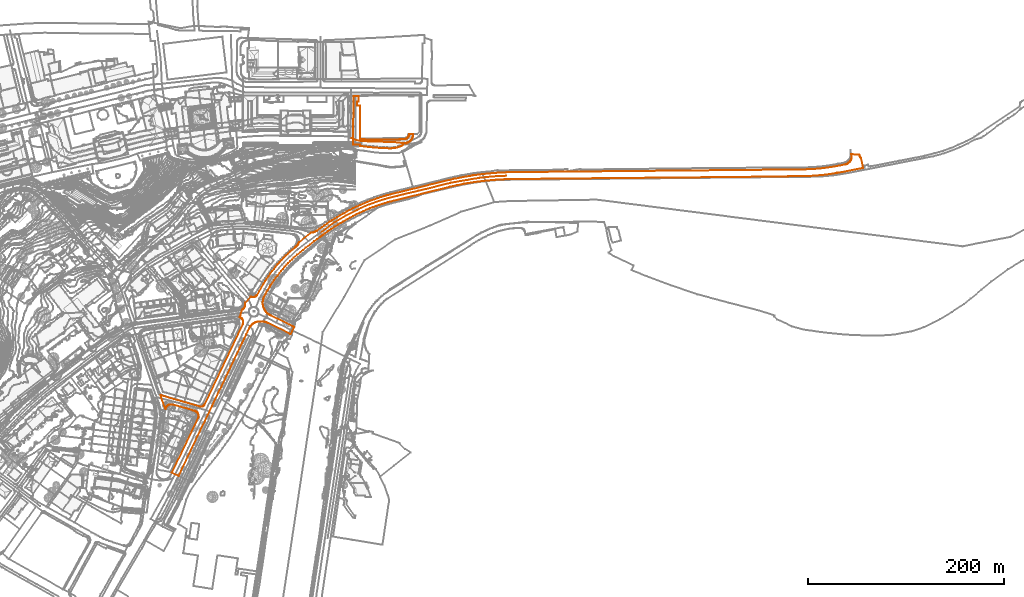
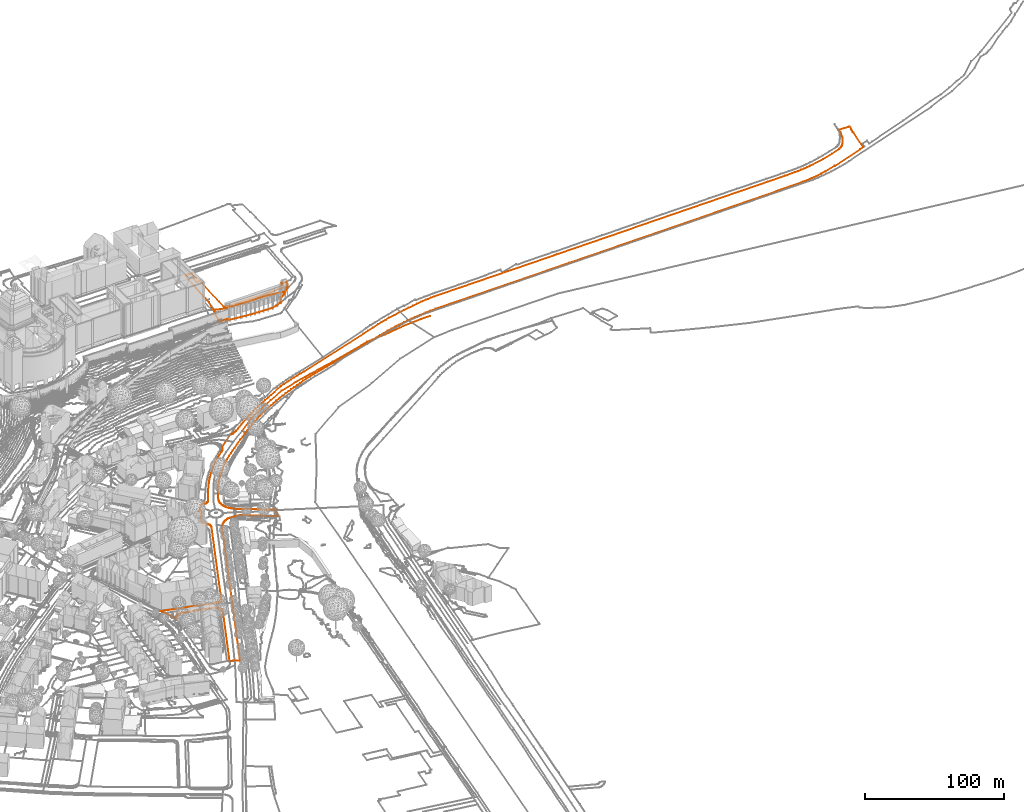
# Not in any storey, part 212 of 494: 4 proxies.
"""IFC2X3 model written with IfcOpenShell, lengths in metres."""

from ifc_helpers import new_model, entity, si_unit, frame, origin_with_axes, place, context, subcontext, project, element, save


model = new_model("IFC2X3")

# Units and contexts
model_context = context("Model", 3, precision=1e-05, world=origin_with_axes())
body_context = subcontext(model_context, "Body", "Model", "MODEL_VIEW")
ifc_project = project(units=[si_unit("AREAUNIT", "SQUARE_METRE"), si_unit("LENGTHUNIT", "METRE")], contexts=[model_context])

# Proxies
proxy_1_placement = place(None, frame((652.7287320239, 270.2307349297, 502.334), z_axis=(0.0, 0.0, 1.0), x_axis=(1.0, 0.0, 0.0)))
element("IfcBuildingElementProxy", 1, at=proxy_1_placement, Name="Road 186", ObjectType="NOTDEFINED", context=body_context, shape_type="GeometricCurveSet", body=[
    entity("IfcGeometricCurveSet", [entity("IfcPolyline", [entity("IfcCartesianPoint", [0.0, 0.0, 0.0]), entity("IfcCartesianPoint", [13.3630000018, 9.8389996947, 0.064]), entity("IfcCartesianPoint", [25.5520000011, 17.0339994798, 0.069]), entity("IfcCartesianPoint", [37.0050000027, 23.0549992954, -0.076]), entity("IfcCartesianPoint", [49.4869999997, 28.6349991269, 0.49]), entity("IfcCartesianPoint", [64.0240000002, 33.6279989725, 0.034]), entity("IfcCartesianPoint", [77.8280000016, 37.2989988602, 0.002]), entity("IfcCartesianPoint", [99.7080000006, 42.4379987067, -0.088]), entity("IfcCartesianPoint", [133.0419999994, 50.6609984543, 0.775]), entity("IfcCartesianPoint", [149.4880000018, 53.5979983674, -0.385]), entity("IfcCartesianPoint", [162.557, 55.6539983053, -0.304]), entity("IfcCartesianPoint", [172.9830000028, 56.8289982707, -0.418]), entity("IfcCartesianPoint", [181.3529999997, 57.4159982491, -0.329]), entity("IfcCartesianPoint", [188.9890000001, 57.7099982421, -0.403])])]),
])
proxy_2_placement = place(None, frame((683.4917320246, 366.5697319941, 539.193), z_axis=(0.0, 0.0, 1.0), x_axis=(1.0, 0.0, 0.0)))
element("IfcBuildingElementProxy", 2, at=proxy_2_placement, Name="Road 194", ObjectType="NOTDEFINED", context=body_context, shape_type="GeometricCurveSet", body=[
    entity("IfcGeometricCurveSet", [entity("IfcPolyline", [entity("IfcCartesianPoint", [0.0, 0.0, 0.0]), entity("IfcCartesianPoint", [4.0940000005, -1.8689999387, 0.0]), entity("IfcCartesianPoint", [9.9670000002, -3.3299998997, 0.0]), entity("IfcCartesianPoint", [26.7219999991, -3.8929998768, 0.0]), entity("IfcCartesianPoint", [44.0549999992, -4.3579998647, 0.0]), entity("IfcCartesianPoint", [56.6810000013, -5.775999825, -0.321])])]),
])
proxy_3_placement = place(None, frame((685.9557320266, 359.8897160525, 531.9942875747), z_axis=(0.0, 0.0, 1.0), x_axis=(1.0, 0.0, 0.0)))
element("IfcBuildingElementProxy", 3, at=proxy_3_placement, Name="Roads Outline 50", ObjectType="NOTDEFINED", context=body_context, shape_type="GeometricCurveSet", body=[
    entity("IfcGeometricCurveSet", [entity("IfcPolyline", [entity("IfcCartesianPoint", [0.0, 0.0, 0.0]), entity("IfcCartesianPoint", [0.0890000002, 15.2690000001, 7.6696997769]), entity("IfcCartesianPoint", [0.2890000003, 49.442, 10.4254506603]), entity("IfcCartesianPoint", [3.659, 49.45, 10.4313252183]), entity("IfcCartesianPoint", [4.142, 49.45, 10.4313252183]), entity("IfcCartesianPoint", [5.6860000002, 49.3999999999, 10.4283955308]), entity("IfcCartesianPoint", [5.6899999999, 43.419, 9.9721661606]), entity("IfcCartesianPoint", [3.7460000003, 43.4180000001, 9.9721215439]), entity("IfcCartesianPoint", [3.7480000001, 39.308, 9.6187777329]), entity("IfcCartesianPoint", [7.1060000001, 39.3100000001, 9.6190103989]), entity("IfcCartesianPoint", [7.1070000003, 36.6429999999, 9.3774083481]), entity("IfcCartesianPoint", [6.8319999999, 36.6429999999, 9.3774083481]), entity("IfcCartesianPoint", [6.844, 12.4750000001, 7.4352180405]), entity("IfcCartesianPoint", [6.9440000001, 12.4750000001, 7.4352180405]), entity("IfcCartesianPoint", [6.9480000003, 5.2579999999, 7.2734139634]), entity("IfcCartesianPoint", [7.4980000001, 5.2579999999, 7.2734139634]), entity("IfcCartesianPoint", [11.4310000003, 5.2320000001, 7.2716905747]), entity("IfcCartesianPoint", [11.4270000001, 4.7439999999, 7.239599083]), entity("IfcCartesianPoint", [47.3960000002, 4.7709999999, 7.2412025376]), entity("IfcCartesianPoint", [47.3960000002, 5.2609999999, 7.2736128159]), entity("IfcCartesianPoint", [51.8680000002, 5.297, 7.2759990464]), entity("IfcCartesianPoint", [52.4380000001, 5.338, 7.2787166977]), entity("IfcCartesianPoint", [53.0010000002, 5.4399999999, 7.2854776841]), entity("IfcCartesianPoint", [53.5490000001, 5.6029999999, 7.2962820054]), entity("IfcCartesianPoint", [54.077, 5.8230000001, 7.3117002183]), entity("IfcCartesianPoint", [54.5780000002, 6.0989999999, 7.3354863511]), entity("IfcCartesianPoint", [55.0950000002, 6.4620000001, 7.3667702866]), entity("IfcCartesianPoint", [55.5649999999, 6.8840000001, 7.394394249]), entity("IfcCartesianPoint", [55.9790000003, 7.361, 7.3950056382]), entity("IfcCartesianPoint", [56.3330000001, 7.8840000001, 7.3952736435]), entity("IfcCartesianPoint", [56.6210000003, 8.446, 7.393798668]), entity("IfcCartesianPoint", [56.8020000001, 8.925, 7.3990630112]), entity("IfcCartesianPoint", [56.9360000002, 9.419, 7.4201388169]), entity("IfcCartesianPoint", [57.02, 9.923, 7.4356003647]), entity("IfcCartesianPoint", [57.054, 10.4339999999, 7.4356627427]), entity("IfcCartesianPoint", [61.0440000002, 10.4609999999, 7.4356660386]), entity("IfcCartesianPoint", [61.0300000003, 9.6580000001, 7.4303354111]), entity("IfcCartesianPoint", [60.9440000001, 8.858, 7.3962045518]), entity("IfcCartesianPoint", [60.787, 8.0700000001, 7.3947854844]), entity("IfcCartesianPoint", [60.5610000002, 7.2989999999, 7.3949261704]), entity("IfcCartesianPoint", [60.267, 6.551, 7.3744404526]), entity("IfcCartesianPoint", [59.9070000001, 5.8329999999, 7.3125620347]), entity("IfcCartesianPoint", [59.4850000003, 5.149, 7.2661889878]), entity("IfcCartesianPoint", [59.003, 4.5060000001, 7.2254649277]), entity("IfcCartesianPoint", [58.466, 3.9080000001, 7.1899513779]), entity("IfcCartesianPoint", [57.878, 3.3599999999, 7.1886018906]), entity("IfcCartesianPoint", [57.2430000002, 2.8670000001, 7.1958536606]), entity("IfcCartesianPoint", [56.5670000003, 2.433, 6.5050056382]), entity("IfcCartesianPoint", [55.8450000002, 2.0560000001, 5.7552165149]), entity("IfcCartesianPoint", [55.0920000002, 1.746, 5.0546247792]), entity("IfcCartesianPoint", [54.3140000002, 1.5060000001, 4.000933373]), entity("IfcCartesianPoint", [53.517, 1.3359999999, 3.2545686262]), entity("IfcCartesianPoint", [52.7080000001, 1.24, 2.8330920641]), entity("IfcCartesianPoint", [51.8940000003, 1.2169999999, 2.7321133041]), entity("IfcCartesianPoint", [51.0810000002, 1.2679999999, 2.9560227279]), entity("IfcCartesianPoint", [51.0580000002, -0.331, 0.056040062]), entity("IfcCartesianPoint", [49.8760000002, -0.9750000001, 0.0664170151]), entity("IfcCartesianPoint", [48.6680000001, -1.5700000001, 0.0835668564]), entity("IfcCartesianPoint", [47.4360000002, -2.112, 0.1039778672]), entity("IfcCartesianPoint", [46.182, -2.602, 0.1272929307]), entity("IfcCartesianPoint", [44.909, -3.0390000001, 0.1492976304]), entity("IfcCartesianPoint", [43.6180000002, -3.4210000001, 0.1381416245]), entity("IfcCartesianPoint", [42.2520000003, -3.679, 0.1123164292]), entity("IfcCartesianPoint", [40.875, -3.8659999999, 0.0935981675]), entity("IfcCartesianPoint", [39.4900000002, -3.9820000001, 0.0819868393]), entity("IfcCartesianPoint", [38.1010000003, -4.027, 0.0774824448]), entity("IfcCartesianPoint", [36.7120000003, -4.0009999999, 0.0800849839]), entity("IfcCartesianPoint", [34.0440000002, -3.973, 0.0828877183]), entity("IfcCartesianPoint", [31.3770000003, -3.889, 0.0912959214]), entity("IfcCartesianPoint", [28.7120000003, -3.7509999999, 0.105109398]), entity("IfcCartesianPoint", [16.9180000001, -2.8019999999, 0.1373637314]), entity("IfcCartesianPoint", [6.9390000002, -1.6529999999, 0.0866925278]), entity("IfcCartesianPoint", [6.9190000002, 0.0319999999, 0.2459170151]), entity("IfcCartesianPoint", [2.5589999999, 0.0219999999, 0.2382802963]), entity("IfcCartesianPoint", [0.4140000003, 0.004, 0.0634251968]), entity("IfcCartesianPoint", [0.0, 0.0, 0.0])])]),
])
proxy_4_placement = place(None, frame((489.6837320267, 104.7347160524, 502.037969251), z_axis=(0.0, 0.0, 1.0), x_axis=(1.0, 0.0, 0.0)))
element("IfcBuildingElementProxy", 4, at=proxy_4_placement, Name="Roads Outline 129", ObjectType="NOTDEFINED", context=body_context, shape_type="GeometricCurveSet", body=[
    entity("IfcGeometricCurveSet", [entity("IfcPolyline", [entity("IfcCartesianPoint", [0.0, 0.0, 0.0]), entity("IfcCartesianPoint", [0.4920000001, -0.233, 0.0318267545]), entity("IfcCartesianPoint", [1.0060000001, -0.412, 0.0950170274]), entity("IfcCartesianPoint", [39.8199999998, -11.6299999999, 0.2764621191]), entity("IfcCartesianPoint", [40.324, -11.797, 0.2865341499]), entity("IfcCartesianPoint", [40.8450000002, -11.895, 0.2985066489]), entity("IfcCartesianPoint", [41.375, -11.923, 0.313501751]), entity("IfcCartesianPoint", [41.9029999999, -11.8810000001, 0.3333480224]), entity("IfcCartesianPoint", [42.4219999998, -11.7690000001, 0.3526205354]), entity("IfcCartesianPoint", [42.8859999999, -11.6029999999, 0.372504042]), entity("IfcCartesianPoint", [43.327, -11.3810000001, 0.3893167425]), entity("IfcCartesianPoint", [43.736, -11.1059999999, 0.4033817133]), entity("IfcCartesianPoint", [44.1090000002, -10.7830000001, 0.400764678]), entity("IfcCartesianPoint", [44.4380000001, -10.416, 0.3657466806]), entity("IfcCartesianPoint", [44.7200000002, -10.0109999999, 0.329784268]), entity("IfcCartesianPoint", [44.9500000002, -9.575, 0.3438664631]), entity("IfcCartesianPoint", [83.7009999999, 71.5360000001, 0.3001369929]), entity("IfcCartesianPoint", [83.929, 72.0379999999, 0.3125179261]), entity("IfcCartesianPoint", [84.1060000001, 72.5590000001, 0.3279154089]), entity("IfcCartesianPoint", [84.2310000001, 73.0959999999, 0.3375027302]), entity("IfcCartesianPoint", [84.3029999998, 73.642, 0.3435276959]), entity("IfcCartesianPoint", [84.3190000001, 74.247, 0.3418342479]), entity("IfcCartesianPoint", [84.27, 74.851, 0.3344868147]), entity("IfcCartesianPoint", [84.156, 75.446, 0.3401234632]), entity("IfcCartesianPoint", [83.9780000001, 76.0249999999, 0.3378386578]), entity("IfcCartesianPoint", [83.7179999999, 76.608, 0.3384688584]), entity("IfcCartesianPoint", [83.3900000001, 77.156, 0.3458584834]), entity("IfcCartesianPoint", [82.9989999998, 77.6599999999, 0.3509445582]), entity("IfcCartesianPoint", [82.5520000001, 78.115, 0.3585128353]), entity("IfcCartesianPoint", [82.0529999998, 78.514, 0.3793027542]), entity("IfcCartesianPoint", [81.4210000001, 78.912, 0.3947122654]), entity("IfcCartesianPoint", [80.7510000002, 79.2409999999, 0.3958385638]), entity("IfcCartesianPoint", [81.3960000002, 81.422, 0.3990033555]), entity("IfcCartesianPoint", [82.986, 86.8019999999, 0.3606123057]), entity("IfcCartesianPoint", [82.9950000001, 86.831, 0.3602272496]), entity("IfcCartesianPoint", [83.6030000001, 87.209, 0.369613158]), entity("IfcCartesianPoint", [84.165, 87.6499999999, 0.3805091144]), entity("IfcCartesianPoint", [84.676, 88.1510000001, 0.3936143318]), entity("IfcCartesianPoint", [85.1290000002, 88.7050000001, 0.4026164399]), entity("IfcCartesianPoint", [85.5189999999, 89.3049999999, 0.4034149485]), entity("IfcCartesianPoint", [85.8199999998, 89.8959999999, 0.3853303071]), entity("IfcCartesianPoint", [86.0589999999, 90.5149999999, 0.3837114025]), entity("IfcCartesianPoint", [86.2349999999, 91.1540000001, 0.385634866]), entity("IfcCartesianPoint", [86.3450000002, 91.808, 0.3934733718]), entity("IfcCartesianPoint", [86.3870000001, 92.47, 0.3949902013]), entity("IfcCartesianPoint", [86.3629999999, 93.1329999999, 0.3962791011]), entity("IfcCartesianPoint", [86.2710000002, 93.79, 0.3904640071]), entity("IfcCartesianPoint", [86.3590000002, 93.8899999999, 0.3864006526]), entity("IfcCartesianPoint", [92.017, 100.321, 0.5224619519]), entity("IfcCartesianPoint", [92.5070000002, 100.0649999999, 0.5266412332]), entity("IfcCartesianPoint", [93.0240000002, 99.8689999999, 0.523044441]), entity("IfcCartesianPoint", [93.5610000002, 99.737, 0.525689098]), entity("IfcCartesianPoint", [94.1090000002, 99.6699999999, 0.5273917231]), entity("IfcCartesianPoint", [94.662, 99.6699999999, 0.52829527]), entity("IfcCartesianPoint", [95.2179999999, 99.7379999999, 0.5303505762]), entity("IfcCartesianPoint", [95.7609999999, 99.8740000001, 0.5272590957]), entity("IfcCartesianPoint", [96.284, 100.075, 0.5236011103]), entity("IfcCartesianPoint", [96.7790000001, 100.338, 0.5236526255]), entity("IfcCartesianPoint", [97.2370000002, 100.659, 0.5298865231]), entity("IfcCartesianPoint", [97.6529999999, 101.034, 0.533267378]), entity("IfcCartesianPoint", [98.0210000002, 101.4569999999, 0.5120987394]), entity("IfcCartesianPoint", [98.3339999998, 101.9210000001, 0.4776904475]), entity("IfcCartesianPoint", [104.9720000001, 113.2220000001, 0.4329129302]), entity("IfcCartesianPoint", [106.5989999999, 115.855, 0.4393658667]), entity("IfcCartesianPoint", [108.2820000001, 118.453, 0.4354937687]), entity("IfcCartesianPoint", [110.02, 121.014, 0.3888726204]), entity("IfcCartesianPoint", [111.8139999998, 123.537, 0.3735200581]), entity("IfcCartesianPoint", [113.6609999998, 126.0209999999, 0.3625646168]), entity("IfcCartesianPoint", [115.5210000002, 128.4140000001, 0.331611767]), entity("IfcCartesianPoint", [117.4309999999, 130.767, 0.3335581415]), entity("IfcCartesianPoint", [119.3900000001, 133.0789999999, 0.3097474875]), entity("IfcCartesianPoint", [121.398, 135.3489999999, 0.3087374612]), entity("IfcCartesianPoint", [123.4530000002, 137.577, 0.2541953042]), entity("IfcCartesianPoint", [125.5550000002, 139.76, 0.2779658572]), entity("IfcCartesianPoint", [127.659, 141.8770000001, 0.2416971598]), entity("IfcCartesianPoint", [129.8119999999, 143.9450000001, 0.2766928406]), entity("IfcCartesianPoint", [132.1209999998, 146.0530000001, 0.2389161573]), entity("IfcCartesianPoint", [134.4819999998, 148.1030000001, 0.2319543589]), entity("IfcCartesianPoint", [136.8930000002, 150.094, 0.233252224]), entity("IfcCartesianPoint", [137.483, 150.5600000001, 0.2067087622]), entity("IfcCartesianPoint", [138.0750000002, 151.0220000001, 0.2246084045]), entity("IfcCartesianPoint", [138.375, 151.3030000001, 0.2387899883]), entity("IfcCartesianPoint", [138.6660000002, 151.595, 0.2399036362]), entity("IfcCartesianPoint", [139.145, 152.0419999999, 0.2449269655]), entity("IfcCartesianPoint", [139.5839999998, 152.5279999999, 0.2313018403]), entity("IfcCartesianPoint", [139.98, 153.0490000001, 0.2313866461]), entity("IfcCartesianPoint", [140.3849999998, 153.703, 0.2462976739]), entity("IfcCartesianPoint", [140.7220000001, 154.3940000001, 0.2484129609]), entity("IfcCartesianPoint", [140.8969999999, 154.926, 0.2506428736]), entity("IfcCartesianPoint", [141.0430000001, 155.4669999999, 0.2681042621]), entity("IfcCartesianPoint", [153.389, 165.3759999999, 0.3942801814]), entity("IfcCartesianPoint", [154.0079999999, 165.399, 0.3974693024]), entity("IfcCartesianPoint", [154.6239999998, 165.4639999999, 0.4004231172]), entity("IfcCartesianPoint", [155.2340000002, 165.571, 0.4063330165]), entity("IfcCartesianPoint", [156.0610000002, 165.821, 0.4165640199]), entity("IfcCartesianPoint", [156.872, 166.1170000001, 0.4288164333]), entity("IfcCartesianPoint", [157.665, 166.4580000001, 0.4243325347]), entity("IfcCartesianPoint", [158.3280000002, 166.7849999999, 0.4382437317]), entity("IfcCartesianPoint", [158.9739999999, 167.1440000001, 0.4357908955]), entity("IfcCartesianPoint", [159.602, 167.534, 0.4292351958]), entity("IfcCartesianPoint", [162.0159999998, 169.2620000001, 0.4507944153]), entity("IfcCartesianPoint", [164.4389999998, 170.9790000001, 0.4510725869]), entity("IfcCartesianPoint", [167.1310000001, 172.8899999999, 0.4517730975]), entity("IfcCartesianPoint", [169.8509999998, 174.76, 0.4492328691]), entity("IfcCartesianPoint", [172.2820000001, 176.378, 0.4508569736]), entity("IfcCartesianPoint", [174.7319999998, 177.9669999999, 0.4847017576]), entity("IfcCartesianPoint", [177.281, 179.5730000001, 0.4665336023]), entity("IfcCartesianPoint", [179.8509999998, 181.1459999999, 0.4957094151]), entity("IfcCartesianPoint", [182.4419999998, 182.6850000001, 0.497907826]), entity("IfcCartesianPoint", [185.8590000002, 184.639, 0.5167643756]), entity("IfcCartesianPoint", [189.3100000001, 186.5320000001, 0.5327420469]), entity("IfcCartesianPoint", [192.7940000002, 188.365, 0.5405500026]), entity("IfcCartesianPoint", [196.3089999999, 190.1370000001, 0.5501238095]), entity("IfcCartesianPoint", [199.8450000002, 191.8419999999, 0.6018668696]), entity("IfcCartesianPoint", [203.4100000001, 193.4850000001, 0.7262769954]), entity("IfcCartesianPoint", [207.0040000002, 195.0649999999, 1.0764587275]), entity("IfcCartesianPoint", [210.625, 196.5819999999, 1.6677379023]), entity("IfcCartesianPoint", [214.031, 197.909, 2.0702251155]), entity("IfcCartesianPoint", [217.4610000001, 199.1710000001, 2.0206606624]), entity("IfcCartesianPoint", [220.915, 200.3670000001, 2.0649130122]), entity("IfcCartesianPoint", [224.3909999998, 201.497, 2.0988642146]), entity("IfcCartesianPoint", [227.6099999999, 202.4850000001, 2.1857584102]), entity("IfcCartesianPoint", [230.8459999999, 203.419, 2.251655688]), entity("IfcCartesianPoint", [234.0970000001, 204.298, 2.2807996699]), entity("IfcCartesianPoint", [237.3620000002, 205.1229999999, 2.3143196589]), entity("IfcCartesianPoint", [294.5580000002, 219.098, 6.8110513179]), entity("IfcCartesianPoint", [299.1400000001, 220.1229999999, 7.3322625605]), entity("IfcCartesianPoint", [303.736, 221.0800000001, 7.8546606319]), entity("IfcCartesianPoint", [308.3470000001, 221.9669999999, 8.6210332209]), entity("IfcCartesianPoint", [311.7609999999, 222.5789999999, 8.9964920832]), entity("IfcCartesianPoint", [315.1809999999, 223.1529999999, 9.3304665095]), entity("IfcCartesianPoint", [318.6069999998, 223.689, 9.6144149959]), entity("IfcCartesianPoint", [323.318, 224.328, 10.0502582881]), entity("IfcCartesianPoint", [328.0389999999, 224.892, 10.4890760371]), entity("IfcCartesianPoint", [331.9380000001, 225.318, 10.8222138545]), entity("IfcCartesianPoint", [335.841, 225.696, 11.1179877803]), entity("IfcCartesianPoint", [339.6269999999, 226.014, 11.4171963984]), entity("IfcCartesianPoint", [343.4160000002, 226.2860000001, 11.8057227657]), entity("IfcCartesianPoint", [347.2089999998, 226.5120000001, 12.1285424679]), entity("IfcCartesianPoint", [351.0040000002, 226.692, 12.3856555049]), entity("IfcCartesianPoint", [352.5090000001, 226.7509999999, 12.4699314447]), entity("IfcCartesianPoint", [355.0729999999, 226.8330000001, 12.5870607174]), entity("IfcCartesianPoint", [357.6370000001, 226.895, 12.6756218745]), entity("IfcCartesianPoint", [457.781, 227.831, 13.196053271]), entity("IfcCartesianPoint", [460.0449999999, 227.852, 13.2068903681]), entity("IfcCartesianPoint", [635.6600000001, 229.496, 14.3168329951]), entity("IfcCartesianPoint", [649.8110000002, 229.6710000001, 14.4176951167]), entity("IfcCartesianPoint", [658.355, 229.807, 14.4960793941]), entity("IfcCartesianPoint", [660.9360000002, 229.9010000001, 14.5502567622]), entity("IfcCartesianPoint", [663.5159999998, 230.0320000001, 14.6245815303]), entity("IfcCartesianPoint", [666.0929999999, 230.199, 14.7187840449]), entity("IfcCartesianPoint", [668.7390000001, 230.4070000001, 14.8361141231]), entity("IfcCartesianPoint", [671.3810000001, 230.6540000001, 14.9754435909]), entity("IfcCartesianPoint", [674.0189999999, 230.9399999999, 15.1369045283]), entity("IfcCartesianPoint", [682.96, 232.1140000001, 15.8689146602]), entity("IfcCartesianPoint", [690.9819999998, 233.561, 16.908541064]), entity("IfcCartesianPoint", [697.6490000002, 234.8659999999, 17.8634882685]), entity("IfcCartesianPoint", [698.3560000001, 235.0530000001, 18.0072258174]), entity("IfcCartesianPoint", [699.0419999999, 235.3049999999, 18.2014553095]), entity("IfcCartesianPoint", [699.7009999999, 235.621, 18.4450129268]), entity("IfcCartesianPoint", [700.327, 235.9979999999, 18.7304437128]), entity("IfcCartesianPoint", [700.915, 236.432, 19.0289511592]), entity("IfcCartesianPoint", [701.46, 236.919, 19.3639122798]), entity("IfcCartesianPoint", [701.9569999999, 237.4550000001, 19.4604683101]), entity("IfcCartesianPoint", [702.4180000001, 238.0619999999, 19.9274079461]), entity("IfcCartesianPoint", [702.818, 238.7120000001, 21.9304902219]), entity("IfcCartesianPoint", [703.1510000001, 239.398, 22.7574882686]), entity("IfcCartesianPoint", [703.4160000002, 240.1129999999, 22.9183669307]), entity("IfcCartesianPoint", [703.6090000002, 240.851, 22.9253937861]), entity("IfcCartesianPoint", [703.7289999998, 241.6040000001, 23.0360007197]), entity("IfcCartesianPoint", [703.7740000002, 242.365, 24.1380126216]), entity("IfcCartesianPoint", [703.7439999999, 243.1270000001, 25.7828010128]), entity("IfcCartesianPoint", [703.3229999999, 245.1300000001, 26.5468620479]), entity("IfcCartesianPoint", [711.6090000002, 244.8970000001, 26.4884401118]), entity("IfcCartesianPoint", [711.8220000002, 244.156, 26.762923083]), entity("IfcCartesianPoint", [712.0180000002, 243.527, 26.3077033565]), entity("IfcCartesianPoint", [712.2749999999, 242.9199999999, 25.4930947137]), entity("IfcCartesianPoint", [712.5890000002, 242.3419999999, 24.0818560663]), entity("IfcCartesianPoint", [712.9580000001, 241.7960000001, 23.0675593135]), entity("IfcCartesianPoint", [713.3790000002, 241.2890000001, 22.9842249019]), entity("IfcCartesianPoint", [715.6120000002, 231.267, 15.3321584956]), entity("IfcCartesianPoint", [712.8760000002, 230.73, 15.0183141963]), entity("IfcCartesianPoint", [689.1940000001, 226.044, 11.4600485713]), entity("IfcCartesianPoint", [689.1510000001, 226.26, 11.7685842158]), entity("IfcCartesianPoint", [680.7719999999, 224.8500000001, 10.4563981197]), entity("IfcCartesianPoint", [676.8110000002, 224.3459999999, 10.0642631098]), entity("IfcCartesianPoint", [672.841, 223.9140000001, 9.7336097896]), entity("IfcCartesianPoint", [668.852, 223.551, 9.5413088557]), entity("IfcCartesianPoint", [664.858, 223.2590000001, 9.3866205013]), entity("IfcCartesianPoint", [660.8590000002, 223.0390000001, 9.2700744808]), entity("IfcCartesianPoint", [638.8670000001, 222.726, 9.0866758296]), entity("IfcCartesianPoint", [638.8280000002, 222.5349999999, 8.9694983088]), entity("IfcCartesianPoint", [543.3280000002, 221.5800000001, 8.2911993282]), entity("IfcCartesianPoint", [489.202, 221.108, 7.8791067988]), entity("IfcCartesianPoint", [466.5619999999, 220.8999999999, 7.7113725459]), entity("IfcCartesianPoint", [359.4100000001, 219.852, 7.1979227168]), entity("IfcCartesianPoint", [354.98, 219.7679999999, 7.1548229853]), entity("IfcCartesianPoint", [350.5529999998, 219.6170000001, 7.0773460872]), entity("IfcCartesianPoint", [346.128, 219.3999999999, 6.9660051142]), entity("IfcCartesianPoint", [341.7059999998, 219.1170000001, 6.8208000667]), entity("IfcCartesianPoint", [337.29, 218.767, 6.6491397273]), entity("IfcCartesianPoint", [334.2450000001, 218.487, 6.5185989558]), entity("IfcCartesianPoint", [331.2030000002, 218.176, 6.373605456]), entity("IfcCartesianPoint", [327.3790000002, 217.7660000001, 6.1865809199]), entity("IfcCartesianPoint", [323.5619999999, 217.3060000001, 5.9832813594]), entity("IfcCartesianPoint", [319.75, 216.7949999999, 5.7454539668]), entity("IfcCartesianPoint", [316.264, 216.257, 5.4619400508]), entity("IfcCartesianPoint", [312.784, 215.676, 5.1851398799]), entity("IfcCartesianPoint", [309.3119999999, 215.0519999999, 4.9268029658]), entity("IfcCartesianPoint", [305.7409999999, 214.3640000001, 4.5904222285]), entity("IfcCartesianPoint", [302.179, 213.6310000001, 4.2715743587]), entity("IfcCartesianPoint", [298.6260000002, 212.8530000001, 4.0173401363]), entity("IfcCartesianPoint", [295.0839999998, 212.0290000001, 3.8253718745]), entity("IfcCartesianPoint", [237.7579999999, 197.9639999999, 2.0761149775]), entity("IfcCartesianPoint", [234.6889999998, 197.182, 1.8576583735]), entity("IfcCartesianPoint", [231.6340000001, 196.348, 1.5897426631]), entity("IfcCartesianPoint", [228.594, 195.4610000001, 1.2473884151]), entity("IfcCartesianPoint", [225.5690000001, 194.523, 0.9055661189]), entity("IfcCartesianPoint", [222.5449999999, 193.5260000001, 0.7276896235]), entity("IfcCartesianPoint", [219.5389999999, 192.477, 0.6606183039]), entity("IfcCartesianPoint", [216.5520000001, 191.375, 0.5836959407]), entity("IfcCartesianPoint", [213.585, 190.2209999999, 0.5472164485]), entity("IfcCartesianPoint", [210.102, 188.791, 0.5033242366]), entity("IfcCartesianPoint", [206.6490000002, 187.2890000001, 0.5211474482]), entity("IfcCartesianPoint", [203.2280000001, 185.716, 0.4538618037]), entity("IfcCartesianPoint", [199.8399999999, 184.0730000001, 0.486218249]), entity("IfcCartesianPoint", [196.3760000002, 182.3319999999, 0.5347172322]), entity("IfcCartesianPoint", [192.9449999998, 180.5260000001, 0.5152099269]), entity("IfcCartesianPoint", [189.5490000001, 178.6570000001, 0.5213662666]), entity("IfcCartesianPoint", [186.1869999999, 176.726, 0.4668910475]), entity("IfcCartesianPoint", [183.4449999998, 175.112, 0.4904026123]), entity("IfcCartesianPoint", [180.73, 173.4550000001, 0.4713032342]), entity("IfcCartesianPoint", [177.29, 171.25, 0.481751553]), entity("IfcCartesianPoint", [173.8820000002, 168.9939999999, 0.4513197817]), entity("IfcCartesianPoint", [170.5320000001, 166.703, 0.4030222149]), entity("IfcCartesianPoint", [167.2170000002, 164.3629999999, 0.3722437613]), entity("IfcCartesianPoint", [166.0759999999, 163.558, 0.3353686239]), entity("IfcCartesianPoint", [164.9410000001, 162.7439999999, 0.3350132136]), entity("IfcCartesianPoint", [164.0150000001, 162.0689999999, 0.3613916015]), entity("IfcCartesianPoint", [163.094, 161.388, 0.3310757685]), entity("IfcCartesianPoint", [162.6000000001, 161.027, 0.3464517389]), entity("IfcCartesianPoint", [159.557, 158.7890000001, 0.359516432]), entity("IfcCartesianPoint", [156.5279999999, 156.5320000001, 0.3168201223]), entity("IfcCartesianPoint", [152.2030000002, 153.2550000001, 0.336954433]), entity("IfcCartesianPoint", [147.9100000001, 149.9380000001, 0.2182045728]), entity("IfcCartesianPoint", [145.2319999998, 147.818, 0.2088180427]), entity("IfcCartesianPoint", [142.5789999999, 145.6669999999, 0.2329256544]), entity("IfcCartesianPoint", [139.1710000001, 142.8200000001, 0.3634406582]), entity("IfcCartesianPoint", [135.8089999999, 139.9199999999, 0.3338330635]), entity("IfcCartesianPoint", [133.8909999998, 138.148, 0.3114798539]), entity("IfcCartesianPoint", [132.0090000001, 136.3370000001, 0.3573746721]), entity("IfcCartesianPoint", [130.165, 134.4879999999, 0.3546616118]), entity("IfcCartesianPoint", [128.3599999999, 132.601, 0.3603923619]), entity("IfcCartesianPoint", [126.5019999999, 130.554, 0.3895127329]), entity("IfcCartesianPoint", [124.682, 128.4739999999, 0.3754822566]), entity("IfcCartesianPoint", [122.8999999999, 126.361, 0.4064679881]), entity("IfcCartesianPoint", [121.1579999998, 124.2150000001, 0.4112157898]), entity("IfcCartesianPoint", [119.284, 121.8149999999, 0.5018478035]), entity("IfcCartesianPoint", [117.46, 119.378, 0.4641318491]), entity("IfcCartesianPoint", [115.6850000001, 116.9040000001, 0.5768830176]), entity("IfcCartesianPoint", [113.96, 114.395, 0.5177460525]), entity("IfcCartesianPoint", [112.287, 111.851, 0.5648822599]), entity("IfcCartesianPoint", [111.719, 110.9450000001, 0.4922565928]), entity("IfcCartesianPoint", [111.1579999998, 110.034, 0.5679844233]), entity("IfcCartesianPoint", [109.7089999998, 107.6030000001, 0.5460242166]), entity("IfcCartesianPoint", [108.3130000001, 105.1410000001, 0.5053488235]), entity("IfcCartesianPoint", [106.9700000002, 102.649, 0.5635916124]), entity("IfcCartesianPoint", [105.682, 100.129, 0.5779423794]), entity("IfcCartesianPoint", [105.2949999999, 99.253, 0.5582761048]), entity("IfcCartesianPoint", [104.9649999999, 98.3540000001, 0.5693903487]), entity("IfcCartesianPoint", [104.6940000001, 97.4350000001, 0.6139149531]), entity("IfcCartesianPoint", [104.483, 96.5009999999, 0.6518028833]), entity("IfcCartesianPoint", [104.3330000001, 95.5549999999, 0.6617279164]), entity("IfcCartesianPoint", [104.2439999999, 94.601, 0.6664302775]), entity("IfcCartesianPoint", [104.2170000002, 93.6470000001, 0.7002412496]), entity("IfcCartesianPoint", [104.2519999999, 92.6939999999, 0.7174642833]), entity("IfcCartesianPoint", [104.3480000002, 91.7450000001, 0.7463504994]), entity("IfcCartesianPoint", [104.5049999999, 90.804, 0.7981586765]), entity("IfcCartesianPoint", [104.7230000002, 89.875, 0.7810090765]), entity("IfcCartesianPoint", [105.0, 88.9620000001, 0.7712170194]), entity("IfcCartesianPoint", [105.398, 87.9839999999, 0.8306107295]), entity("IfcCartesianPoint", [105.8679999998, 87.0379999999, 0.8476780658]), entity("IfcCartesianPoint", [106.4070000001, 86.1300000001, 0.8588735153]), entity("IfcCartesianPoint", [107.0120000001, 85.2649999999, 0.8711099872]), entity("IfcCartesianPoint", [107.6809999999, 84.4469999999, 0.8858651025]), entity("IfcCartesianPoint", [108.4079999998, 83.6810000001, 0.9250246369]), entity("IfcCartesianPoint", [109.1899999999, 82.9709999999, 0.9568424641]), entity("IfcCartesianPoint", [110.023, 82.3219999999, 0.9927378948]), entity("IfcCartesianPoint", [110.9020000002, 81.737, 0.9913033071]), entity("IfcCartesianPoint", [111.8220000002, 81.2180000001, 1.0143836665]), entity("IfcCartesianPoint", [112.7779999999, 80.77, 1.0540065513]), entity("IfcCartesianPoint", [134.7310000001, 70.01, -0.9569198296]), entity("IfcCartesianPoint", [136.2009999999, 69.2890000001, -1.0759925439]), entity("IfcCartesianPoint", [135.73, 68.3230000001, -1.0826023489]), entity("IfcCartesianPoint", [132.648, 62.004, -1.0242031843]), entity("IfcCartesianPoint", [132.2050000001, 62.2209999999, -1.017158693]), entity("IfcCartesianPoint", [109.6290000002, 73.3219999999, 1.1629903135]), entity("IfcCartesianPoint", [108.6340000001, 73.764, 1.1262017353]), entity("IfcCartesianPoint", [107.6120000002, 74.138, 1.0789037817]), entity("IfcCartesianPoint", [106.5660000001, 74.4399999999, 1.0637142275]), entity("IfcCartesianPoint", [105.6170000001, 74.6340000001, 1.0193603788]), entity("IfcCartesianPoint", [104.6609999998, 74.7830000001, 1.0490911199]), entity("IfcCartesianPoint", [103.6979999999, 74.8870000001, 1.0508860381]), entity("IfcCartesianPoint", [102.7379999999, 74.977, 1.0368086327]), entity("IfcCartesianPoint", [101.7740000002, 75.0020000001, 0.9779914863]), entity("IfcCartesianPoint", [100.8110000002, 74.9610000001, 0.9364992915]), entity("IfcCartesianPoint", [99.8530000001, 74.8540000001, 0.935758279]), entity("IfcCartesianPoint", [98.9350000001, 74.713, 0.9177296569]), entity("IfcCartesianPoint", [98.031, 74.496, 0.8734545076]), entity("IfcCartesianPoint", [97.1490000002, 74.2050000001, 0.8284077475]), entity("IfcCartesianPoint", [96.2940000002, 73.841, 0.8124893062]), entity("IfcCartesianPoint", [95.4350000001, 73.3530000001, 0.7720185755]), entity("IfcCartesianPoint", [94.6129999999, 72.8060000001, 0.7388556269]), entity("IfcCartesianPoint", [93.8309999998, 72.203, 0.7081495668]), entity("IfcCartesianPoint", [93.094, 71.5460000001, 0.6570803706]), entity("IfcCartesianPoint", [92.446, 70.885, 0.6074910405]), entity("IfcCartesianPoint", [91.8429999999, 70.182, 0.5816437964]), entity("IfcCartesianPoint", [91.287, 69.4410000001, 0.5561385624]), entity("IfcCartesianPoint", [90.7820000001, 68.665, 0.5454139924]), entity("IfcCartesianPoint", [90.3280000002, 67.858, 0.5229730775]), entity("IfcCartesianPoint", [88.7889999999, 64.6880000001, 0.4848656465]), entity("IfcCartesianPoint", [87.2549999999, 61.5149999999, 0.490140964]), entity("IfcCartesianPoint", [85.1340000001, 57.112, 0.568507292]), entity("IfcCartesianPoint", [83.0219999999, 52.7050000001, 0.510795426]), entity("IfcCartesianPoint", [68.2940000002, 21.9010000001, 0.3691617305]), entity("IfcCartesianPoint", [52.4530000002, -11.304, 0.4526008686]), entity("IfcCartesianPoint", [48.1600000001, -20.23, 0.4857385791]), entity("IfcCartesianPoint", [18.395, -82.3910000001, 0.3850113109]), entity("IfcCartesianPoint", [11.6669999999, -79.1440000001, 0.2423395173]), entity("IfcCartesianPoint", [11.6209999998, -79.122, 0.2398931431]), entity("IfcCartesianPoint", [38.284, -23.4720000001, 0.3566035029]), entity("IfcCartesianPoint", [38.4989999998, -22.8740000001, 0.3365345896]), entity("IfcCartesianPoint", [38.6439999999, -22.2560000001, 0.3487908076]), entity("IfcCartesianPoint", [38.7170000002, -21.625, 0.3256136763]), entity("IfcCartesianPoint", [38.7170000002, -20.99, 0.2915808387]), entity("IfcCartesianPoint", [38.6439999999, -20.3589999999, 0.2878974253]), entity("IfcCartesianPoint", [38.5, -19.74, 0.2847381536]), entity("IfcCartesianPoint", [38.2859999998, -19.142, 0.2841696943]), entity("IfcCartesianPoint", [38.0040000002, -18.5730000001, 0.2734845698]), entity("IfcCartesianPoint", [37.6850000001, -18.0759999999, 0.2454893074]), entity("IfcCartesianPoint", [37.3160000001, -17.6159999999, 0.2604003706]), entity("IfcCartesianPoint", [36.8990000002, -17.1980000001, 0.258629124]), entity("IfcCartesianPoint", [36.4399999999, -16.827, 0.2386435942]), entity("IfcCartesianPoint", [35.9440000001, -16.507, 0.3324920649]), entity("IfcCartesianPoint", [35.4169999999, -16.2409999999, 0.3787613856]), entity("IfcCartesianPoint", [34.8640000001, -16.034, 0.3948989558]), entity("IfcCartesianPoint", [34.2930000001, -15.8859999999, 0.4347659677]), entity("IfcCartesianPoint", [33.5040000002, -15.6739999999, 0.4910150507]), entity("IfcCartesianPoint", [12.5260000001, -9.7139999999, -0.0067858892]), entity("IfcCartesianPoint", [11.9180000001, -9.574, -0.0287898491]), entity("IfcCartesianPoint", [11.2990000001, -9.5, -0.0285620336]), entity("IfcCartesianPoint", [10.6749999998, -9.4920000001, 0.02978985]), entity("IfcCartesianPoint", [10.054, -9.55, 0.0623875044]), entity("IfcCartesianPoint", [9.443, -9.6739999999, 0.0739623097]), entity("IfcCartesianPoint", [8.8480000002, -9.8629999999, 0.0127276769]), entity("IfcCartesianPoint", [8.2770000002, -10.1140000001, -0.0357370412]), entity("IfcCartesianPoint", [7.736, -10.4239999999, -0.0392759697]), entity("IfcCartesianPoint", [7.2310000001, -10.791, -0.0430880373]), entity("IfcCartesianPoint", [6.7680000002, -11.209, -0.053010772]), entity("IfcCartesianPoint", [6.3530000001, -11.6739999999, -0.0802345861]), entity("IfcCartesianPoint", [5.9890000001, -12.1810000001, -0.1097893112]), entity("IfcCartesianPoint", [5.6809999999, -12.7239999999, -0.0793645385]), entity("IfcCartesianPoint", [5.4330000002, -13.2960000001, -0.0391066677]), entity("IfcCartesianPoint", [5.247, -13.892, -0.0242537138]), entity("IfcCartesianPoint", [5.1260000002, -14.504, -0.0116619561]), entity("IfcCartesianPoint", [0.5469999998, -1.548, 0.0012008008]), entity("IfcCartesianPoint", [0.1189999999, -0.3370000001, -0.0084400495]), entity("IfcCartesianPoint", [0.0, 0.0, 0.0])])]),
])

save(model, "model.ifc")
